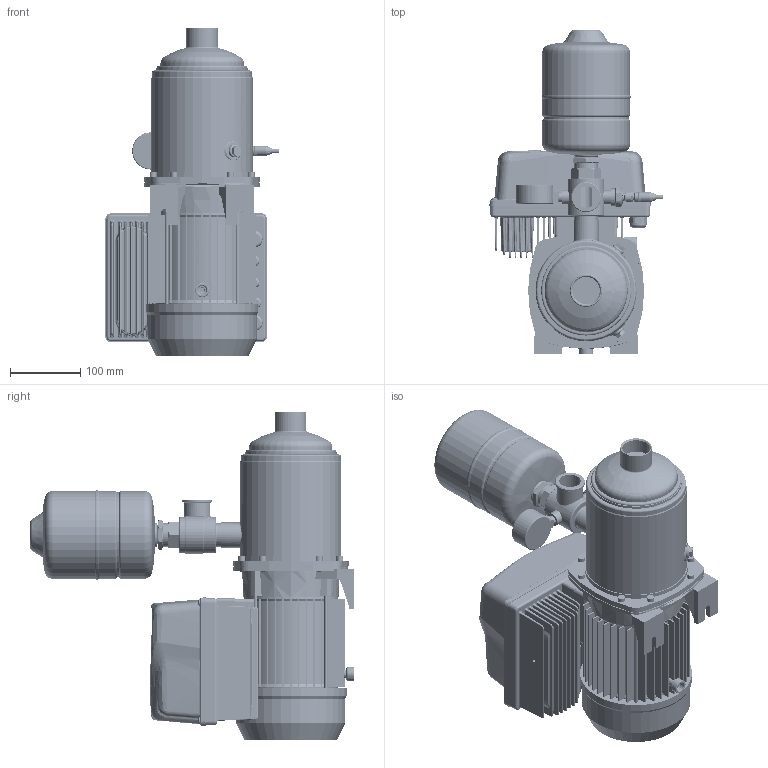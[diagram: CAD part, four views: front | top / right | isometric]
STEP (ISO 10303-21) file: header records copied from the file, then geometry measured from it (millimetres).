
FILE_DESCRIPTION((''),'2;1');
FILE_NAME('1GPE_MATRIX_5-6T_1-3_ESPM_ASM','2024-12-02T15:02:23',('Utente'),('"Ebara Pumps Europe S.p.A"'),'CREO PARAMETRIC BY PTC INC, 2022124','CREO PARAMETRIC BY PTC INC, 2022124','');
FILE_SCHEMA(('AUTOMOTIVE_DESIGN { 1 0 10303 214 1 1 1 1 }'));
Length unit declared in the file: millimetre
Products named in the file (14): EP_MATRIX_5-6T_1-3_IE3; EP_MATRIX_5-6T_1-3_ASM; ADATTATORE_E-SPD_MEC80-90-100; E-SPD_ADATTATORE_MEC80-90-100_ASM; BACK_E-SPD_PLUS_2200-4000; COVER_E-SPD_PLUS_2200-4000; COM_E-SPDM_MEC80-90-100_ORIZ_ASM; RACC_5_VIE_NR_1_A304; TRASD_ASHCROFT_M12_GEN; CABLE_M12_FEMALE; TRASD_ASHCROFT_10B_MP_362331051_ASM; MAN_RAD_D50_10BAR_361600160; VASO_ESPANSIONE_2L_GWS; 1GPE_MATRIX_5-6T_1-3_ESPM_ASM
Assembly tree (13 placements, depth 3):
  1GPE_MATRIX_5-6T_1-3_ESPM_ASM
    EP_MATRIX_5-6T_1-3_ASM
      EP_MATRIX_5-6T_1-3_IE3
    E-SPD_ADATTATORE_MEC80-90-100_ASM
      ADATTATORE_E-SPD_MEC80-90-100
    COM_E-SPDM_MEC80-90-100_ORIZ_ASM
      BACK_E-SPD_PLUS_2200-4000
      COVER_E-SPD_PLUS_2200-4000
    RACC_5_VIE_NR_1_A304
    TRASD_ASHCROFT_10B_MP_362331051_ASM
      TRASD_ASHCROFT_M12_GEN
      CABLE_M12_FEMALE
    MAN_RAD_D50_10BAR_361600160
    VASO_ESPANSIONE_2L_GWS
Bounding box: 246.19 x 461.11 x 466.8 mm (x, y, z)
Volume: 5373884.5 mm3; surface area: 1324546.6 mm2
Topology: 91 solids, 512 shells, 12011 faces, 30520 edges, 18116 vertices
Faces by surface type: plane 6003, cylinder 2630, sphere 1047, bspline 948, cone 482, torus 466, extrusion 435
Entity records: 488916 total; most frequent: CARTESIAN_POINT 173735, ORIENTED_EDGE 56205, DIRECTION 53521, EDGE_CURVE 29043, VERTEX_POINT 17996, VECTOR 17859, AXIS2_PLACEMENT_3D 17812, LINE 17424
